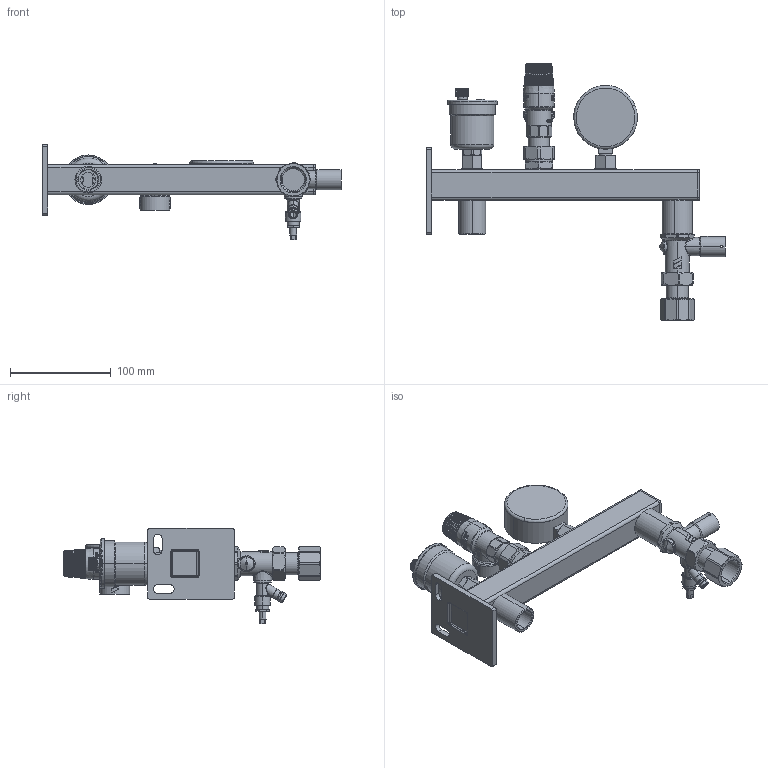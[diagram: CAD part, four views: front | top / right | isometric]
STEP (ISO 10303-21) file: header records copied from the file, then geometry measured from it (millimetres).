
FILE_DESCRIPTION (( 'STEP AP214' ), '1' );
FILE_NAME ('0606210.STEP', '2017-06-26T08:57:35', ( 'Adminwatts' ), ( '' ), 'SwSTEP 2.0', 'SolidWorks 2017', '' );
FILE_SCHEMA (( 'AUTOMOTIVE_DESIGN' ));
Length unit declared in the file: millimetre
Products named in the file (1): 0606210
Bounding box: 295.5 x 253.9 x 94.3 mm (x, y, z)
Surface area: 113939.6 mm2 (no closed solid volume)
Topology: 0 solids, 70 shells, 1239 faces, 4127 edges, 2839 vertices
Faces by surface type: plane 441, bspline 257, cylinder 252, cone 190, torus 84, sphere 15
Entity records: 71482 total; most frequent: CARTESIAN_POINT 25757, ORIENTED_EDGE 6674, DIRECTION 5779, EDGE_CURVE 4115, VERTEX_POINT 2839, AXIS2_PLACEMENT_3D 2139, VECTOR 1501, LINE 1501
